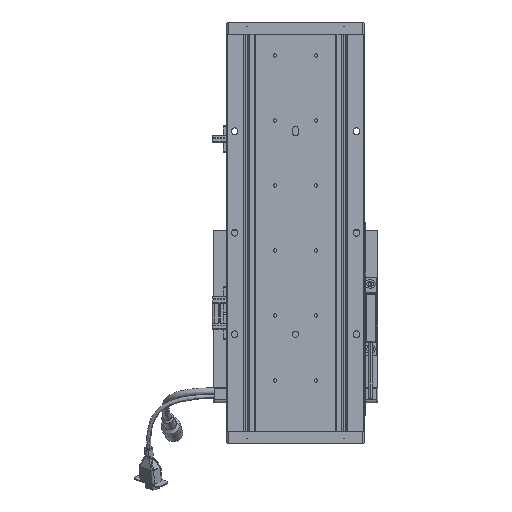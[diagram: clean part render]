
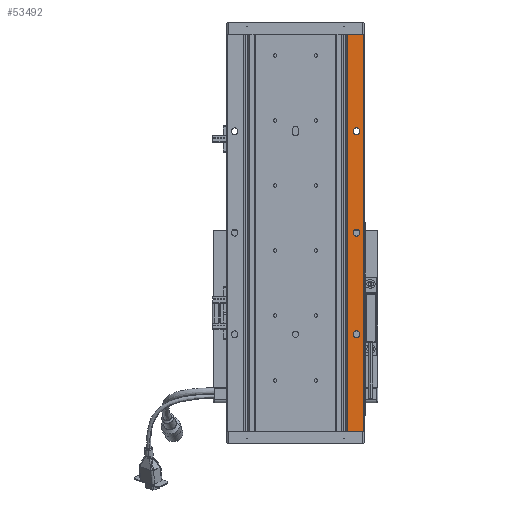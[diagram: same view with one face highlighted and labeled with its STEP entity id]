
A CAD part, front view. The second image highlights one B-rep face of the part: STEP entity #53492.
In plain terms, the highlighted planar face has unit normal (0, -1, 0).
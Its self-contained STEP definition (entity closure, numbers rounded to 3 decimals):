
#289 = LINE ( 'NONE', #51741, #21757 ) ;
#329 = VERTEX_POINT ( 'NONE', #26096 ) ;
#515 = EDGE_CURVE ( 'NONE', #16622, #60109, #28100, .T. ) ;
#821 = ORIENTED_EDGE ( 'NONE', *, *, #40455, .T. ) ;
#828 = EDGE_CURVE ( 'NONE', #14661, #16312, #44661, .T. ) ;
#1014 = ORIENTED_EDGE ( 'NONE', *, *, #515, .F. ) ;
#1266 = CIRCLE ( 'NONE', #34528, 3.3 ) ;
#1274 = EDGE_CURVE ( 'NONE', #50725, #27566, #50528, .T. ) ;
#2875 = CIRCLE ( 'NONE', #67725, 3.3 ) ;
#3001 = DIRECTION ( 'NONE',  ( 0., 1., 0. ) ) ;
#3126 = ORIENTED_EDGE ( 'NONE', *, *, #29487, .T. ) ;
#3984 = DIRECTION ( 'NONE',  ( 0., 0., 1. ) ) ;
#4051 = CARTESIAN_POINT ( 'NONE',  ( 3326.78, 1428.268, 92.2 ) ) ;
#4394 = DIRECTION ( 'NONE',  ( 0., 0., 1. ) ) ;
#5718 = CARTESIAN_POINT ( 'NONE',  ( 3333.53, 1428.268, 391. ) ) ;
#5809 = DIRECTION ( 'NONE',  ( 0., 0., 1. ) ) ;
#5968 = CIRCLE ( 'NONE', #34746, 3.3 ) ;
#6933 = FACE_BOUND ( 'NONE', #17519, .T. ) ;
#7948 = CARTESIAN_POINT ( 'NONE',  ( 3326.78, 1428.268, 195.5 ) ) ;
#9162 = CARTESIAN_POINT ( 'NONE',  ( 3326.78, 1428.268, 292.2 ) ) ;
#9170 = DIRECTION ( 'NONE',  ( -1., 0., 0. ) ) ;
#10208 = FACE_OUTER_BOUND ( 'NONE', #67208, .T. ) ;
#12624 = EDGE_CURVE ( 'NONE', #31705, #40562, #5968, .T. ) ;
#13944 = ORIENTED_EDGE ( 'NONE', *, *, #47093, .T. ) ;
#14661 = VERTEX_POINT ( 'NONE', #36526 ) ;
#15391 = VERTEX_POINT ( 'NONE', #68500 ) ;
#15901 = AXIS2_PLACEMENT_3D ( 'NONE', #36038, #20476, #51958 ) ;
#16312 = VERTEX_POINT ( 'NONE', #66536 ) ;
#16622 = VERTEX_POINT ( 'NONE', #37602 ) ;
#16999 = EDGE_CURVE ( 'NONE', #27566, #50725, #1266, .T. ) ;
#17519 = EDGE_LOOP ( 'NONE', ( #13944, #54925 ) ) ;
#17982 = CARTESIAN_POINT ( 'NONE',  ( 3326.78, 1428.268, 98.8 ) ) ;
#18343 = EDGE_CURVE ( 'NONE', #60109, #15391, #289, .T. ) ;
#19134 = PLANE ( 'NONE',  #40490 ) ;
#19667 = CARTESIAN_POINT ( 'NONE',  ( 3326.78, 1428.268, 95.5 ) ) ;
#20476 = DIRECTION ( 'NONE',  ( 0., 1., 0. ) ) ;
#21369 = ORIENTED_EDGE ( 'NONE', *, *, #828, .T. ) ;
#21669 = CIRCLE ( 'NONE', #55668, 3.3 ) ;
#21757 = VECTOR ( 'NONE', #9170, 1000. ) ;
#24060 = DIRECTION ( 'NONE',  ( 0., 1., 0. ) ) ;
#24530 = CARTESIAN_POINT ( 'NONE',  ( 3326.78, 1428.268, 95.5 ) ) ;
#26096 = CARTESIAN_POINT ( 'NONE',  ( 3317.768, 1428.268, 391. ) ) ;
#26891 = CARTESIAN_POINT ( 'NONE',  ( 3317.768, 1428.268, 391. ) ) ;
#27544 = CARTESIAN_POINT ( 'NONE',  ( 3326.78, 1428.268, 295.5 ) ) ;
#27566 = VERTEX_POINT ( 'NONE', #4051 ) ;
#28100 = LINE ( 'NONE', #5718, #42197 ) ;
#28601 = CARTESIAN_POINT ( 'NONE',  ( 3187.99, 1428.268, 391. ) ) ;
#28689 = DIRECTION ( 'NONE',  ( 0., 0., 1. ) ) ;
#29487 = EDGE_CURVE ( 'NONE', #16622, #329, #40966, .T. ) ;
#31705 = VERTEX_POINT ( 'NONE', #9162 ) ;
#34528 = AXIS2_PLACEMENT_3D ( 'NONE', #19667, #35688, #3984 ) ;
#34592 = DIRECTION ( 'NONE',  ( 0., 0., 1. ) ) ;
#34746 = AXIS2_PLACEMENT_3D ( 'NONE', #27544, #64300, #5809 ) ;
#35688 = DIRECTION ( 'NONE',  ( 0., 1., 0. ) ) ;
#36038 = CARTESIAN_POINT ( 'NONE',  ( 3326.78, 1428.268, 195.5 ) ) ;
#36526 = CARTESIAN_POINT ( 'NONE',  ( 3326.78, 1428.268, 192.2 ) ) ;
#37602 = CARTESIAN_POINT ( 'NONE',  ( 3333.53, 1428.268, 391. ) ) ;
#38643 = ORIENTED_EDGE ( 'NONE', *, *, #45684, .F. ) ;
#39804 = DIRECTION ( 'NONE',  ( 0., 1., 0. ) ) ;
#40066 = FACE_BOUND ( 'NONE', #53134, .T. ) ;
#40455 = EDGE_CURVE ( 'NONE', #16312, #14661, #2875, .T. ) ;
#40490 = AXIS2_PLACEMENT_3D ( 'NONE', #45378, #3001, #4394 ) ;
#40562 = VERTEX_POINT ( 'NONE', #62261 ) ;
#40966 = LINE ( 'NONE', #28601, #55821 ) ;
#41308 = ORIENTED_EDGE ( 'NONE', *, *, #16999, .T. ) ;
#42197 = VECTOR ( 'NONE', #58671, 1000. ) ;
#43340 = DIRECTION ( 'NONE',  ( 0., 0., 1. ) ) ;
#44603 = DIRECTION ( 'NONE',  ( -1., 0., 0. ) ) ;
#44661 = CIRCLE ( 'NONE', #15901, 3.3 ) ;
#45378 = CARTESIAN_POINT ( 'NONE',  ( 3187.99, 1428.268, 0. ) ) ;
#45684 = EDGE_CURVE ( 'NONE', #15391, #329, #51068, .T. ) ;
#47093 = EDGE_CURVE ( 'NONE', #40562, #31705, #21669, .T. ) ;
#49191 = FACE_BOUND ( 'NONE', #51947, .T. ) ;
#49707 = CARTESIAN_POINT ( 'NONE',  ( 3333.53, 1428.268, 0. ) ) ;
#50528 = CIRCLE ( 'NONE', #51904, 3.3 ) ;
#50725 = VERTEX_POINT ( 'NONE', #17982 ) ;
#50956 = DIRECTION ( 'NONE',  ( 0., 1., 0. ) ) ;
#51068 = LINE ( 'NONE', #26891, #53570 ) ;
#51741 = CARTESIAN_POINT ( 'NONE',  ( 3329.68, 1428.268, 0. ) ) ;
#51904 = AXIS2_PLACEMENT_3D ( 'NONE', #24530, #39804, #34592 ) ;
#51947 = EDGE_LOOP ( 'NONE', ( #821, #21369 ) ) ;
#51958 = DIRECTION ( 'NONE',  ( 0., 0., 1. ) ) ;
#53134 = EDGE_LOOP ( 'NONE', ( #68566, #41308 ) ) ;
#53492 = ADVANCED_FACE ( 'NONE', ( #6933, #40066, #49191, #10208 ), #19134, .F. ) ;
#53570 = VECTOR ( 'NONE', #43340, 1000. ) ;
#54925 = ORIENTED_EDGE ( 'NONE', *, *, #12624, .T. ) ;
#55668 = AXIS2_PLACEMENT_3D ( 'NONE', #55723, #24060, #28689 ) ;
#55723 = CARTESIAN_POINT ( 'NONE',  ( 3326.78, 1428.268, 295.5 ) ) ;
#55821 = VECTOR ( 'NONE', #44603, 1000. ) ;
#58671 = DIRECTION ( 'NONE',  ( 0., 0., -1. ) ) ;
#60109 = VERTEX_POINT ( 'NONE', #49707 ) ;
#60447 = DIRECTION ( 'NONE',  ( 0., 0., 1. ) ) ;
#62261 = CARTESIAN_POINT ( 'NONE',  ( 3326.78, 1428.268, 298.8 ) ) ;
#63765 = ORIENTED_EDGE ( 'NONE', *, *, #18343, .F. ) ;
#64300 = DIRECTION ( 'NONE',  ( 0., 1., 0. ) ) ;
#66536 = CARTESIAN_POINT ( 'NONE',  ( 3326.78, 1428.268, 198.8 ) ) ;
#67208 = EDGE_LOOP ( 'NONE', ( #63765, #1014, #3126, #38643 ) ) ;
#67725 = AXIS2_PLACEMENT_3D ( 'NONE', #7948, #50956, #60447 ) ;
#68500 = CARTESIAN_POINT ( 'NONE',  ( 3317.768, 1428.268, 0. ) ) ;
#68566 = ORIENTED_EDGE ( 'NONE', *, *, #1274, .T. ) ;
